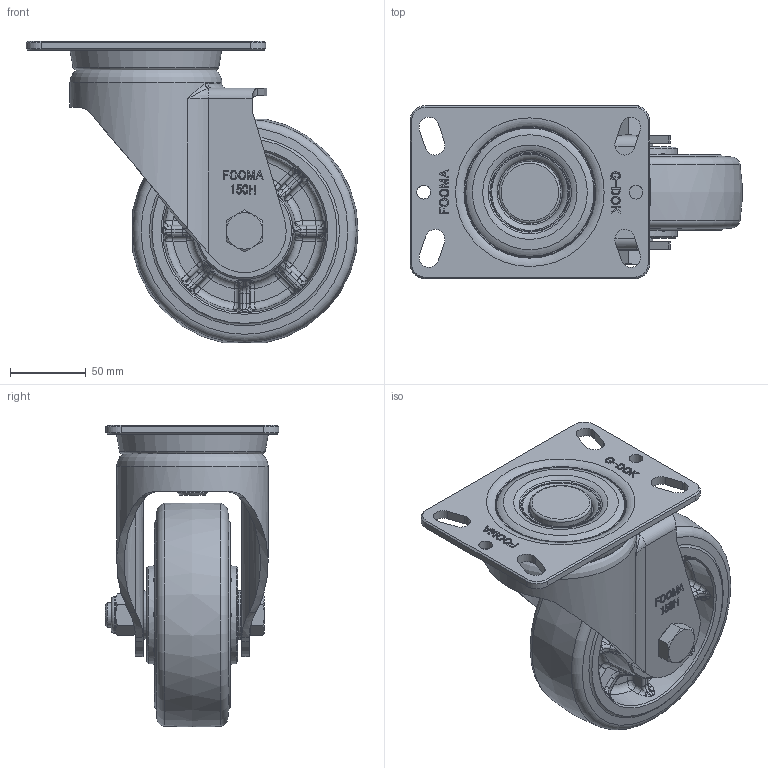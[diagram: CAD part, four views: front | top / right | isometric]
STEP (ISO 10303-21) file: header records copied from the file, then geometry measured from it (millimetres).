
FILE_DESCRIPTION(/* description */ (''),/* implementation_level */ '2;1');
FILE_NAME(/* name */ 'Y:\1.기술연구소\2.연구개발 진행중\94.PLM 고하중 개발\1.도면\3D\홈페이지용 3D\GHP-150-ASF-MUD.stp',/* time_stamp */ '2024-04-24T13:06:22+09:00',/* author */ ('장용하'),/* organization */ (''),/* preprocessor_version */ 'ST-DEVELOPER v18.1',/* originating_system */ 'Autodesk Inventor 2021',/* authorisation */ '');
FILE_SCHEMA (('AUTOMOTIVE_DESIGN { 1 0 10303 214 3 1 1 }'));
Products named in the file (1): GHP-150-ASF-MUD_Shrinkwrap_1
Bounding box: 218.84 x 114.5 x 198.77 mm (x, y, z)
Volume: 1109818.9 mm3; surface area: 184293.5 mm2
Topology: 1 solids, 1 shells, 1419 faces, 3534 edges, 2164 vertices
Faces by surface type: bspline 611, plane 429, cylinder 266, torus 64, cone 49
Full cylindrical faces by diameter (mm): 9 x2, 16 x1, 20 x1, 22.49 x1, 24 x1, 32 x2, 41 x1, 72 x2, 74 x1, 86 x1, 90 x1, 100 x1
Entity records: 52897 total; most frequent: CARTESIAN_POINT 22689, ORIENTED_EDGE 7060, DIRECTION 4981, EDGE_CURVE 3530, VERTEX_POINT 2164, AXIS2_PLACEMENT_3D 1844, EDGE_LOOP 1486, FACE_OUTER_BOUND 1419
